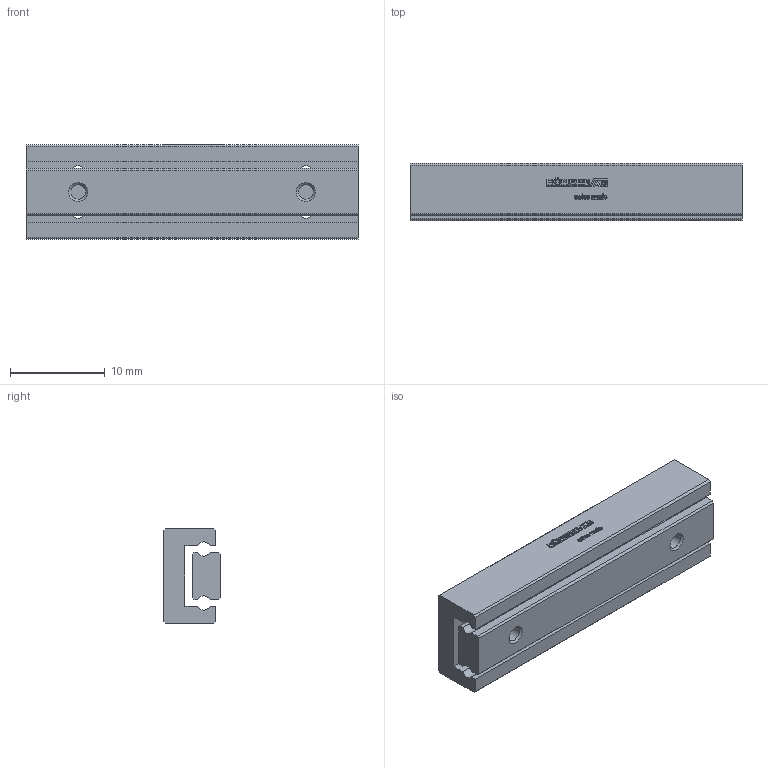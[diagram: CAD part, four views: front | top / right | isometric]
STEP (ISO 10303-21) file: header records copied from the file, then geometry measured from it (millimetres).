
FILE_DESCRIPTION(/* description */ ('STEP AP214'),/* implementation_level */ '2;1');
FILE_NAME(/* name */ 'NDN 1-35.25(0)',/* time_stamp */ '2025-04-16T17:10:01+02:00',/* author */ ('License CC BY-ND 4.0'),/* organization */ ('CADENAS'),/* preprocessor_version */ 'ST-DEVELOPER v19.3',/* originating_system */ 'PARTsolutions',/* authorisation */ ' ');
FILE_SCHEMA (('AUTOMOTIVE_DESIGN {1 0 10303 214 3 1 1}'));
Length unit declared in the file: millimetre
Products named in the file (3): NDN 1-35.25(0); NDN 1-35.25_1; NDN 1-35.25_2
Assembly tree (2 placements, depth 2):
  NDN 1-35.25(0)
    NDN 1-35.25_1
    NDN 1-35.25_2
Bounding box: 35 x 6 x 10 mm (x, y, z)
Volume: 1632.8 mm3; surface area: 2036.1 mm2
Topology: 2 solids, 2 shells, 511 faces, 1432 edges, 952 vertices
Faces by surface type: cylinder 302, plane 201, cone 8
Full cylindrical faces by diameter (mm): 1.567 x6
Entity records: 16723 total; most frequent: DIRECTION 3058, CARTESIAN_POINT 2884, ORIENTED_EDGE 2836, EDGE_CURVE 1418, AXIS2_PLACEMENT_3D 1126, VERTEX_POINT 952, LINE 806, VECTOR 806
